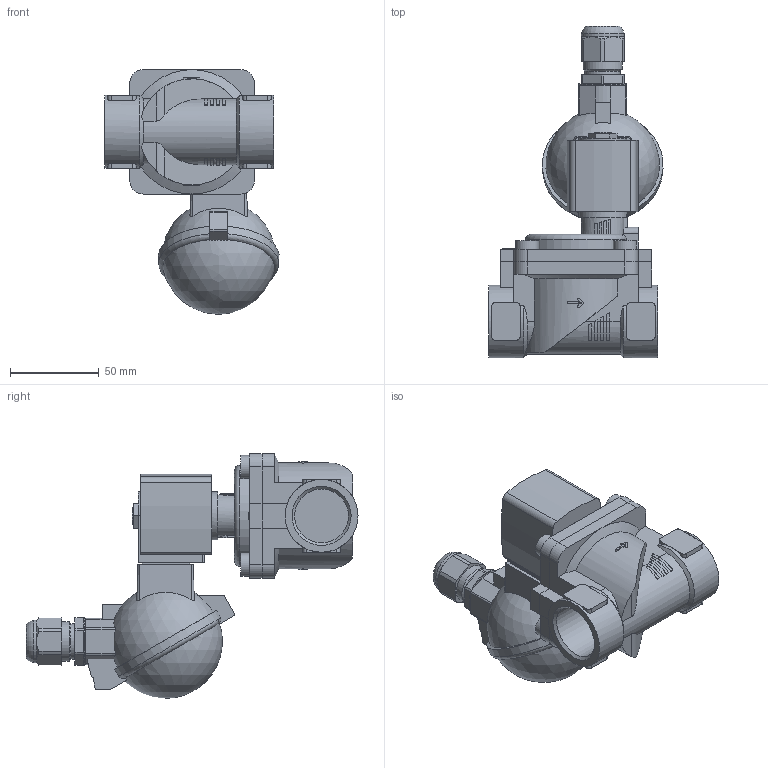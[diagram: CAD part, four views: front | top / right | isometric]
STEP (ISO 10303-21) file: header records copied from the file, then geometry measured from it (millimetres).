
FILE_DESCRIPTION(/* description */ ('STEP AP214'),/* implementation_level */ '2;1');
FILE_NAME(/* name */ '6281-382474-2_2-Way_Solenoid_Valve__Servo-assisted__General_Purpose',/* time_stamp */ '2024-08-27T15:15:21+02:00',/* author */ ('License CC BY-ND 4.0'),/* organization */ ('CADENAS'),/* preprocessor_version */ 'ST-DEVELOPER v19.3',/* originating_system */ 'PARTsolutions',/* authorisation */ ' ');
FILE_SCHEMA (('AUTOMOTIVE_DESIGN {1 0 10303 214 3 1 1}'));
Length unit declared in the file: millimetre
Products named in the file (4): 6281-382474-2/2-Way Solenoid Valve, Servo-assisted, General Purpose; 5281ev250MS2/2-Wege-Magnetventil mit Servomembran-Deckel   ; 6213-25G1MS-Gehaeuse-; AC10ex-6ATEXKLK_MB05Plan-Coil
Assembly tree (3 placements, depth 2):
  6281-382474-2/2-Way Solenoid Valve, Servo-assisted, General Purpose
    5281ev250MS2/2-Wege-Magnetventil mit Servomembran-Deckel   
    6213-25G1MS-Gehaeuse-
    AC10ex-6ATEXKLK_MB05Plan-Coil
Bounding box: 97.93 x 186.8 x 137.7 mm (x, y, z)
Volume: 483887.4 mm3; surface area: 78943.7 mm2
Topology: 3 solids, 3 shells, 387 faces, 1040 edges, 684 vertices
Faces by surface type: plane 239, cylinder 115, cone 25, torus 4, sphere 4
Full cylindrical faces by diameter (mm): 3.242 x1, 9.74 x1, 13 x4, 14 x1, 17.294 x1, 20 x1, 22 x1, 23 x1, 24 x1, 27 x2, 30.291 x2, 41 x2
Entity records: 13643 total; most frequent: CARTESIAN_POINT 2409, DIRECTION 2022, ORIENTED_EDGE 1996, EDGE_CURVE 998, AXIS2_PLACEMENT_3D 724, VERTEX_POINT 670, LINE 574, VECTOR 574
